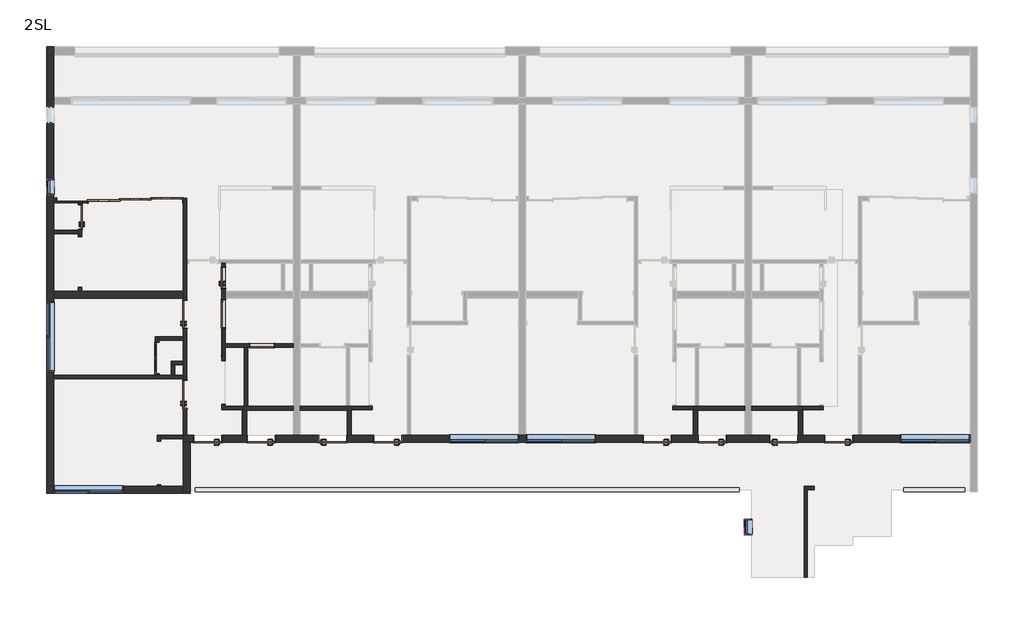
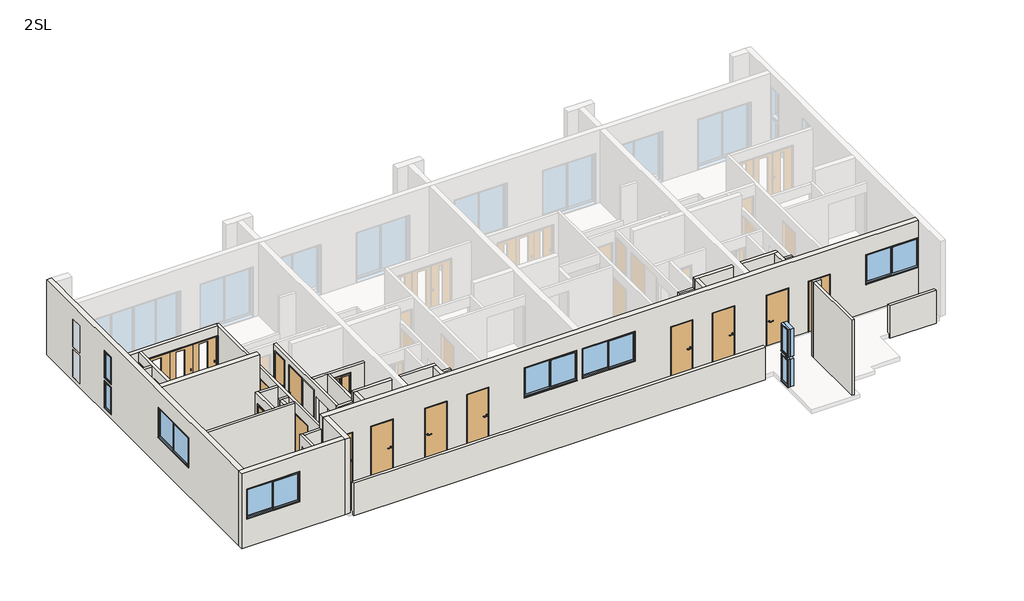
# One storey, part 1 of 3: 35 walls, 16 doors, 9 windows.
"""IFC4 building model written with IfcOpenShell, lengths in millimetres."""

from ifc_helpers import new_model, si_unit, frame, origin, place, context, project, spatial, polyline, outline, extrude, faceted_brep, transform, mapped, element, save
from components import door_02215395, door_74c77d62, door_21f0bdc0, door_a3db7c72, door_3b96e66a, door_ecad7493, door_6eb1cc95, door_2193869f, door_12b42705, window_a7724039, window_4c3e1407, w0450_h1100_93ba837a

model = new_model("IFC4")

# Units and contexts
model_context = context("Model", 3, world=origin())
ifc_project = project(units=[si_unit("LENGTHUNIT", "METRE", prefix="MILLI")], contexts=[model_context])

# Site, building, storey
site = spatial("IfcSite", under=ifc_project)
building = spatial("IfcBuilding", under=site)
storey = spatial("IfcBuildingStorey", under=building, Name="2SL", Elevation=4000.0)

# Doors
placement = place(None, origin())
door_shape = door_02215395(model_context)
element("IfcDoor", 1, ObjectType="鋼製_片開きマンション黒 : SD-1 w800h2000", at=placement, inside=storey, context=model_context, shape_type="MappedRepresentation", body=[
    mapped(door_shape, transform((-6095.6194095, -909.7401342, 4000.0), x_axis=(-1.0, 0.0, 0.0), y_axis=(0.0, -1.0, 0.0), z_axis=(0.0, 0.0, 1.0))),
])
element("IfcDoor", 2, ObjectType="鋼製_片開きマンション黒 : SD-1 w800h2000", at=placement, inside=storey, context=model_context, shape_type="MappedRepresentation", body=[
    mapped(door_shape, transform((-945.6194095, -909.7401342, 4000.0), x_axis=(-1.0, 0.0, 0.0), y_axis=(0.0, -1.0, 0.0), z_axis=(0.0, 0.0, 1.0))),
])
element("IfcDoor", 3, ObjectType="鋼製_片開きマンション黒 : SD-1 w800h2000", at=placement, inside=storey, context=model_context, shape_type="MappedRepresentation", body=[
    mapped(door_shape, transform((6754.3805905, -909.7401342, 4000.0), x_axis=(-1.0, 0.0, 0.0), y_axis=(0.0, -1.0, 0.0), z_axis=(0.0, 0.0, 1.0))),
])
element("IfcDoor", 4, ObjectType="鋼製_片開きマンション黒 : SD-1 w800h2000", at=placement, inside=storey, context=model_context, shape_type="MappedRepresentation", body=[
    mapped(door_shape, transform((11954.3805905, -909.7401342, 4000.0), x_axis=(-1.0, 0.0, 0.0), y_axis=(0.0, -1.0, 0.0), z_axis=(0.0, 0.0, 1.0))),
])
element("IfcDoor", 5, ObjectType="鋼製_片開きマンション黒 : SD-2 w800h2000", at=placement, inside=storey, context=model_context, shape_type="MappedRepresentation", body=[
    mapped(door_shape, transform((-4565.6194095, -909.7401342, 4000.0), x_axis=(-1.0, 0.0, 0.0), y_axis=(0.0, -1.0, 0.0), z_axis=(0.0, 0.0, 1.0))),
])
element("IfcDoor", 6, ObjectType="鋼製_片開きマンション黒 : SD-2 w800h2000", at=placement, inside=storey, context=model_context, shape_type="MappedRepresentation", body=[
    mapped(door_shape, transform((8334.3805905, -909.7401342, 4000.0), x_axis=(-1.0, 0.0, 0.0), y_axis=(0.0, -1.0, 0.0), z_axis=(0.0, 0.0, 1.0))),
])
door_2_shape = door_74c77d62(model_context)
element("IfcDoor", 7, ObjectType="鋼製_片開きマンション黒 : SD-2 w800h2000", at=placement, inside=storey, context=model_context, shape_type="MappedRepresentation", body=[
    mapped(door_2_shape, transform((-2525.6194095, -909.7401342, 4000.0), x_axis=(1.0, 0.0, 0.0), y_axis=(0.0, 1.0, 0.0), z_axis=(0.0, 0.0, 1.0))),
])
element("IfcDoor", 8, ObjectType="鋼製_片開きマンション黒 : SD-2 w800h2000", at=placement, inside=storey, context=model_context, shape_type="MappedRepresentation", body=[
    mapped(door_2_shape, transform((10374.3805905, -909.7401342, 4000.0), x_axis=(1.0, 0.0, 0.0), y_axis=(0.0, 1.0, 0.0), z_axis=(0.0, 0.0, 1.0))),
])
door_3_shape = door_21f0bdc0(model_context)
element("IfcDoor", 9, ObjectType="木製_片開き_フラッシュ : WD-3 w700h2000", at=placement, inside=storey, context=model_context, shape_type="MappedRepresentation", body=[
    mapped(door_3_shape, transform((-9745.6194095, 5440.2598658, 4100.0), x_axis=(0.0, 1.0, 0.0), y_axis=(-1.0, 0.0, 0.0), z_axis=(0.0, 0.0, 1.0))),
])
door_4_shape = door_a3db7c72(model_context)
element("IfcDoor", 10, ObjectType="木製_片開き_フラッシュ : WD-2 w600h2000", at=placement, inside=storey, context=model_context, shape_type="MappedRepresentation", body=[
    mapped(door_4_shape, transform((-5645.6194095, 3696.254513, 4210.0), x_axis=(0.0, 1.0, 0.0), y_axis=(-1.0, 0.0, 0.0), z_axis=(0.0, 0.0, 1.0))),
])
door_5_shape = door_3b96e66a(model_context)
element("IfcDoor", 11, ObjectType="木製_片開き_フラッシュ : WD-1\u3000w800h2000", at=placement, inside=storey, context=model_context, shape_type="MappedRepresentation", body=[
    mapped(door_5_shape, transform((-6745.6194095, 365.2598658, 4060.0), x_axis=(0.0, 1.0, 0.0), y_axis=(-1.0, 0.0, 0.0), z_axis=(0.0, 0.0, 1.0))),
])
element("IfcDoor", 12, ObjectType="木製_片開き_フラッシュ : WD-1\u3000w800h2000", at=placement, inside=storey, context=model_context, shape_type="MappedRepresentation", body=[
    mapped(door_5_shape, transform((-6745.6194095, 2654.3897435, 4060.0), x_axis=(0.0, 1.0, 0.0), y_axis=(-1.0, 0.0, 0.0), z_axis=(0.0, 0.0, 1.0))),
])
door_6_shape = door_ecad7493(model_context)
element("IfcDoor", 13, ObjectType="木製_折戸2枚_フラッシュ(UB) : WD-5 w900h2000", at=placement, inside=storey, context=model_context, shape_type="MappedRepresentation", body=[
    mapped(door_6_shape, transform((-7545.6194095, 1404.0387532, 4060.0), x_axis=(0.0, 1.0, 0.0), y_axis=(-1.0, 0.0, 0.0), z_axis=(0.0, 0.0, 1.0))),
])
door_7_shape = door_6eb1cc95(model_context)
element("IfcDoor", 14, ObjectType="木製_折戸2枚_フラッシュ(UB) : UB-1 w600h2000", at=placement, inside=storey, context=model_context, shape_type="MappedRepresentation", body=[
    mapped(door_7_shape, transform((-4545.6194095, 1760.2598658, 4210.0), x_axis=(1.0, 0.0, 0.0), y_axis=(0.0, 1.0, 0.0), z_axis=(0.0, 0.0, 1.0))),
])
door_8_shape = door_2193869f(model_context)
element("IfcDoor", 15, ObjectType="木製_片引き3枚_フラッシュ2 : WD-8 w2700h2000", at=placement, inside=storey, context=model_context, shape_type="MappedRepresentation", body=[
    mapped(door_8_shape, transform((-8171.1549135, 5910.2598658, 4100.0), x_axis=(-1.0, 0.0, 0.0), y_axis=(0.0, -1.0, 0.0), z_axis=(0.0, 0.0, 1.0))),
])
door_9_shape = door_12b42705(model_context)
element("IfcDoor", 16, ObjectType="木製_片引き_フラッシュ : WD-4 w800h2000", at=placement, inside=storey, context=model_context, shape_type="MappedRepresentation", body=[
    mapped(door_9_shape, transform((-5645.6194095, 2664.7243619, 4210.0), x_axis=(0.0, -1.0, 0.0), y_axis=(1.0, 0.0, 0.0), z_axis=(0.0, 0.0, 1.0))),
])

# Walls
element("IfcWall", 17, ObjectType="(C2)120", at=placement, inside=storey, context=model_context, shape_type="Brep", body=[
    faceted_brep([(-3645.6194095, 30.2598658, 4000.0), (-5105.6194095, 30.2598658, 4000.0), (-5105.6194095, 30.2598658, 4060.0), (-5105.6194095, 30.2598658, 6460.0), (-5105.6194095, 30.2598658, 6850.0), (-3645.6194095, 30.2598658, 6850.0), (-3645.6194095, -89.7401342, 4000.0), (-3645.6194095, -89.7401342, 6850.0), (-4985.6194095, -89.7401342, 6850.0), (-5105.6194095, -89.7401342, 6850.0), (-5105.6194095, -89.7401342, 4000.0), (-4985.6194095, -89.7401342, 4000.0)], [[[0, 1, 2, 3, 4, 5]], [[6, 7, 8, 9, 10, 11]], [[1, 0, 6, 11, 10]], [[5, 4, 9, 8, 7]], [[1, 10, 9, 4, 3, 2]], [[0, 5, 7, 6]]]),
])
element("IfcWall", 18, ObjectType="(C2)120", at=placement, inside=storey, context=model_context, shape_type="Brep", body=[
    faceted_brep([(-5105.6194095, -89.7401342, 6850.0), (-5105.6194095, -89.7401342, 4000.0), (-5105.6194095, -809.7401342, 4000.0), (-5105.6194095, -809.7401342, 6850.0), (-4985.6194095, -89.7401342, 4000.0), (-4985.6194095, -89.7401342, 6850.0), (-4985.6194095, -809.7401342, 6850.0), (-4985.6194095, -809.7401342, 6020.0), (-4985.6194095, -809.7401342, 4000.0)], [[[0, 1, 2, 3]], [[4, 5, 6, 7, 8]], [[2, 1, 4, 8]], [[0, 3, 6, 5]], [[0, 5, 4, 1]], [[3, 2, 8, 7, 6]]]),
])
element("IfcWall", 19, ObjectType="(C2)120", at=placement, inside=storey, context=model_context, shape_type="Brep", body=[
    faceted_brep([(-3445.6194095, -89.7401342, 4000.0), (-2105.6194095, -89.7401342, 4000.0), (-1985.6194095, -89.7401342, 4000.0), (-1985.6194095, -89.7401342, 6850.0), (-2105.6194095, -89.7401342, 6850.0), (-3445.6194095, -89.7401342, 6850.0), (-3445.6194095, 30.2598658, 4000.0), (-3445.6194095, 30.2598658, 6850.0), (-1985.6194095, 30.2598658, 6850.0), (-1985.6194095, 30.2598658, 6460.0), (-1985.6194095, 30.2598658, 4000.0), (-2035.6194095, 30.2598658, 4000.0), (-2135.6194095, 30.2598658, 4000.0), (-1985.6194095, -69.7401342, 4000.0)], [[[0, 1, 2, 3, 4, 5]], [[6, 7, 8, 9, 10, 11, 12]], [[2, 1, 0, 6, 12, 11, 10, 13]], [[5, 4, 3, 8, 7]], [[2, 13, 10, 9, 8, 3]], [[0, 5, 7, 6]]]),
])
element("IfcWall", 20, ObjectType="(C2)120", at=placement, inside=storey, context=model_context, shape_type="Brep", body=[
    faceted_brep([(-2105.6194095, -89.7401342, 6850.0), (-2105.6194095, -89.7401342, 4000.0), (-2105.6194095, -809.7401342, 4000.0), (-2105.6194095, -809.7401342, 6020.0), (-2105.6194095, -809.7401342, 6850.0), (-1985.6194095, -89.7401342, 4000.0), (-1985.6194095, -89.7401342, 6850.0), (-1985.6194095, -809.7401342, 6850.0), (-1985.6194095, -809.7401342, 4000.0)], [[[0, 1, 2, 3, 4]], [[5, 6, 7, 8]], [[2, 1, 5, 8]], [[0, 4, 7, 6]], [[0, 6, 5, 1]], [[4, 3, 2, 8, 7]]]),
])
element("IfcWall", 21, ObjectType="(C2)120", at=placement, inside=storey, context=model_context, shape_type="Brep", body=[
    faceted_brep([(9254.3805905, 30.2598658, 4000.0), (7944.3805905, 30.2598658, 4000.0), (7844.3805905, 30.2598658, 4000.0), (7794.3805905, 30.2598658, 4000.0), (7794.3805905, 30.2598658, 6460.0), (7794.3805905, 30.2598658, 6850.0), (9254.3805905, 30.2598658, 6850.0), (9254.3805905, -89.7401342, 4000.0), (9254.3805905, -89.7401342, 6850.0), (7914.3805905, -89.7401342, 6850.0), (7794.3805905, -89.7401342, 6850.0), (7794.3805905, -89.7401342, 4000.0), (7914.3805905, -89.7401342, 4000.0), (7794.3805905, -69.7401342, 4000.0)], [[[0, 1, 2, 3, 4, 5, 6]], [[7, 8, 9, 10, 11, 12]], [[3, 2, 1, 0, 7, 12, 11, 13]], [[6, 5, 10, 9, 8]], [[3, 13, 11, 10, 5, 4]], [[0, 6, 8, 7]]]),
])
element("IfcWall", 22, ObjectType="(C2)120", at=placement, inside=storey, context=model_context, shape_type="Brep", body=[
    faceted_brep([(7794.3805905, -89.7401342, 6850.0), (7794.3805905, -89.7401342, 4000.0), (7794.3805905, -809.7401342, 4000.0), (7794.3805905, -809.7401342, 6850.0), (7914.3805905, -89.7401342, 4000.0), (7914.3805905, -89.7401342, 6850.0), (7914.3805905, -809.7401342, 6850.0), (7914.3805905, -809.7401342, 6020.0), (7914.3805905, -809.7401342, 4000.0)], [[[0, 1, 2, 3]], [[4, 5, 6, 7, 8]], [[2, 1, 4, 8]], [[0, 3, 6, 5]], [[0, 5, 4, 1]], [[3, 2, 8, 7, 6]]]),
])
element("IfcWall", 23, ObjectType="(C2)120", at=placement, inside=storey, context=model_context, shape_type="Brep", body=[
    faceted_brep([(9454.3805905, -89.7401342, 4000.0), (10794.3805905, -89.7401342, 4000.0), (10914.3805905, -89.7401342, 4000.0), (10914.3805905, -89.7401342, 6850.0), (10794.3805905, -89.7401342, 6850.0), (9454.3805905, -89.7401342, 6850.0), (9454.3805905, 30.2598658, 4000.0), (9454.3805905, 30.2598658, 6850.0), (10914.3805905, 30.2598658, 6850.0), (10914.3805905, 30.2598658, 6460.0), (10914.3805905, 30.2598658, 4000.0), (10864.3805905, 30.2598658, 4000.0), (10764.3805905, 30.2598658, 4000.0), (10914.3805905, -69.7401342, 4000.0)], [[[0, 1, 2, 3, 4, 5]], [[6, 7, 8, 9, 10, 11, 12]], [[2, 1, 0, 6, 12, 11, 10, 13]], [[5, 4, 3, 8, 7]], [[2, 13, 10, 9, 8, 3]], [[0, 5, 7, 6]]]),
])
element("IfcWall", 24, ObjectType="(C2)120", at=placement, inside=storey, context=model_context, shape_type="Brep", body=[
    faceted_brep([(10794.3805905, -89.7401342, 6850.0), (10794.3805905, -89.7401342, 4000.0), (10794.3805905, -809.7401342, 4000.0), (10794.3805905, -809.7401342, 6020.0), (10794.3805905, -809.7401342, 6850.0), (10914.3805905, -89.7401342, 4000.0), (10914.3805905, -89.7401342, 6850.0), (10914.3805905, -809.7401342, 6850.0), (10914.3805905, -809.7401342, 4000.0)], [[[0, 1, 2, 3, 4]], [[5, 6, 7, 8]], [[2, 1, 5, 8]], [[0, 4, 7, 6]], [[0, 6, 5, 1]], [[4, 3, 2, 8, 7]]]),
])
element("IfcWall", 25, ObjectType="(L)100", at=placement, inside=storey, context=model_context, shape_type="Brep", body=[
    faceted_brep([(-7545.6194095, -2259.7401342, 6460.0), (-7545.6194095, -809.7401342, 6460.0), (-7545.6194095, -809.7401342, 4060.0), (-7545.6194095, -975.9612468, 4060.0), (-7545.6194095, -975.9612468, 6080.0), (-7545.6194095, -2215.9612468, 6080.0), (-7545.6194095, -2215.9612468, 4060.0), (-7545.6194095, -2259.7401342, 4060.0), (-7445.6194095, -809.7401342, 6460.0), (-7445.6194095, -909.7401342, 6460.0), (-7445.6194095, -2259.7401342, 6460.0), (-7445.6194095, -2259.7401342, 4060.0), (-7445.6194095, -2215.9612468, 4060.0), (-7445.6194095, -2215.9612468, 6080.0), (-7445.6194095, -975.9612468, 6080.0), (-7445.6194095, -975.9612468, 4060.0), (-7445.6194095, -909.7401342, 4060.0), (-7445.6194095, -809.7401342, 4060.0)], [[[0, 1, 2, 3, 4, 5, 6, 7]], [[8, 9, 10, 11, 12, 13, 14, 15, 16, 17]], [[2, 17, 16, 15, 3]], [[11, 7, 6, 12]], [[1, 0, 10, 9, 8]], [[2, 1, 8, 17]], [[0, 7, 11, 10]], [[14, 4, 3, 15]], [[5, 13, 12, 6]], [[13, 5, 4, 14]]]),
])
element("IfcWall", 26, ObjectType="(L)100", at=placement, inside=storey, context=model_context, shape_type="SweptSolid", body=[
    extrude(outline(polyline([(-7445.6194095, -809.7401342), (-6795.6194095, -809.7401342), (-6795.6194095, -909.7401342), (-7445.6194095, -909.7401342), (-7445.6194095, -809.7401342)])), frame((0.0, 0.0, 4060.0), z_axis=(0.0, 0.0, 1.0), x_axis=(1.0, 0.0, 0.0)), (0.0, 0.0, 1.0), 2400.0),
])
element("IfcWall", 27, ObjectType="(L)100", at=placement, inside=storey, context=model_context, shape_type="Brep", body=[
    faceted_brep([(-6795.6194095, 910.2598658, 4060.0), (-7036.6140567, 910.2598658, 4060.0), (-7136.6140567, 910.2598658, 4060.0), (-10495.6194095, 910.2598658, 4060.0), (-10495.6194095, 910.2598658, 6460.0), (-7595.6194095, 910.2598658, 6460.0), (-7495.6194095, 910.2598658, 6460.0), (-7136.6140567, 910.2598658, 6460.0), (-7036.6140567, 910.2598658, 6460.0), (-6795.6194095, 910.2598658, 6460.0), (-6795.6194095, 810.2598658, 4060.0), (-6795.6194095, 810.2598658, 6460.0), (-10495.6194095, 810.2598658, 6460.0), (-10495.6194095, 810.2598658, 4060.0)], [[[0, 1, 2, 3, 4, 5, 6, 7, 8, 9]], [[10, 11, 12, 13]], [[3, 2, 1, 0, 10, 13]], [[9, 8, 7, 6, 5, 4, 12, 11]], [[4, 3, 13, 12]], [[0, 9, 11, 10]]]),
])
element("IfcWall", 28, ObjectType="(L)100", at=placement, inside=storey, context=model_context, shape_type="Brep", body=[
    faceted_brep([(-5105.6194095, 30.2598658, 4060.0), (-5595.6194095, 30.2598658, 4060.0), (-5695.6194095, 30.2598658, 4060.0), (-5695.6194095, 30.2598658, 6460.0), (-5595.6194095, 30.2598658, 6460.0), (-5105.6194095, 30.2598658, 6460.0), (-5105.6194095, -69.7401342, 4060.0), (-5105.6194095, -69.7401342, 6460.0), (-5695.6194095, -69.7401342, 6460.0), (-5695.6194095, -69.7401342, 4060.0)], [[[0, 1, 2, 3, 4, 5]], [[6, 7, 8, 9]], [[2, 1, 0, 6, 9]], [[5, 4, 3, 8, 7]], [[3, 2, 9, 8]], [[0, 5, 7, 6]]]),
])
element("IfcWall", 29, ObjectType="(L)100", at=placement, inside=storey, context=model_context, shape_type="Brep", body=[
    faceted_brep([(-5595.6194095, 4110.2598658, 6460.0), (-5595.6194095, 1810.2598658, 6460.0), (-5595.6194095, 1710.2598658, 6460.0), (-5595.6194095, 30.2598658, 6460.0), (-5595.6194095, 30.2598658, 4060.0), (-5595.6194095, 80.2598658, 4060.0), (-5595.6194095, 80.2598658, 6020.0), (-5595.6194095, 1320.2598658, 6020.0), (-5595.6194095, 1320.2598658, 4060.0), (-5595.6194095, 1710.2598658, 4060.0), (-5595.6194095, 1810.2598658, 4060.0), (-5595.6194095, 4110.2598658, 4060.0), (-5595.6194095, 2250.2598658, 6230.0), (-5595.6194095, 3090.2598658, 6230.0), (-5595.6194095, 3090.2598658, 4210.0), (-5595.6194095, 2250.2598658, 4210.0), (-5595.6194095, 4016.254513, 6230.0), (-5595.6194095, 4016.254513, 4210.0), (-5595.6194095, 3376.254513, 4210.0), (-5595.6194095, 3376.254513, 6230.0), (-5695.6194095, 30.2598658, 6460.0), (-5695.6194095, 4110.2598658, 6460.0), (-5695.6194095, 4110.2598658, 4060.0), (-5695.6194095, 1320.2598658, 4060.0), (-5695.6194095, 1320.2598658, 6020.0), (-5695.6194095, 80.2598658, 6020.0), (-5695.6194095, 80.2598658, 4060.0), (-5695.6194095, 30.2598658, 4060.0), (-5695.6194095, 3090.2598658, 6230.0), (-5695.6194095, 1450.2598658, 6230.0), (-5695.6194095, 1450.2598658, 4210.0), (-5695.6194095, 3090.2598658, 4210.0), (-5695.6194095, 4016.254513, 4210.0), (-5695.6194095, 4016.254513, 6230.0), (-5695.6194095, 3376.254513, 6230.0), (-5695.6194095, 3376.254513, 4210.0), (-5665.6194095, 2250.2598658, 6230.0), (-5665.6194095, 1450.2598658, 6230.0), (-5665.6194095, 1450.2598658, 4210.0), (-5665.6194095, 2250.2598658, 4210.0)], [[[0, 1, 2, 3, 4, 5, 6, 7, 8, 9, 10, 11], [12, 13, 14, 15], [16, 17, 18, 19]], [[20, 21, 22, 23, 24, 25, 26, 27], [28, 29, 30, 31], [32, 33, 34, 35]], [[22, 11, 10, 9, 8, 23]], [[4, 27, 26, 5]], [[3, 2, 1, 0, 21, 20]], [[0, 11, 22, 21]], [[4, 3, 20, 27]], [[7, 24, 23, 8]], [[25, 6, 5, 26]], [[24, 7, 6, 25]], [[36, 37, 29, 28, 13, 12]], [[13, 28, 31, 14]], [[38, 39, 15, 14, 31, 30]], [[39, 36, 12, 15]], [[37, 36, 39, 38]], [[37, 38, 30, 29]], [[16, 33, 32, 17]], [[17, 32, 35, 18]], [[18, 35, 34, 19]], [[33, 16, 19, 34]]]),
])
element("IfcWall", 30, ObjectType="(L)100", at=placement, inside=storey, context=model_context, shape_type="Brep", body=[
    faceted_brep([(-3645.6194095, 1810.2598658, 4060.0), (-5595.6194095, 1810.2598658, 4060.0), (-5595.6194095, 1810.2598658, 6460.0), (-3645.6194095, 1810.2598658, 6460.0), (-4175.6194095, 1810.2598658, 6230.0), (-4915.6194095, 1810.2598658, 6230.0), (-4915.6194095, 1810.2598658, 4210.0), (-4175.6194095, 1810.2598658, 4210.0), (-3645.6194095, 1710.2598658, 4060.0), (-3645.6194095, 1710.2598658, 6460.0), (-4955.6194095, 1710.2598658, 6460.0), (-5055.6194095, 1710.2598658, 6460.0), (-5595.6194095, 1710.2598658, 6460.0), (-5595.6194095, 1710.2598658, 4060.0), (-5055.6194095, 1710.2598658, 4060.0), (-4955.6194095, 1710.2598658, 4060.0), (-4175.6194095, 1710.2598658, 6230.0), (-4175.6194095, 1710.2598658, 4210.0), (-4915.6194095, 1710.2598658, 4210.0), (-4915.6194095, 1710.2598658, 6230.0)], [[[0, 1, 2, 3], [4, 5, 6, 7]], [[8, 9, 10, 11, 12, 13, 14, 15], [16, 17, 18, 19]], [[1, 0, 8, 15, 14, 13]], [[3, 2, 12, 11, 10, 9]], [[2, 1, 13, 12]], [[0, 3, 9, 8]], [[17, 16, 4, 7]], [[18, 17, 7, 6]], [[19, 18, 6, 5]], [[16, 19, 5, 4]]]),
])
element("IfcWall", 31, ObjectType="(L)100", at=placement, inside=storey, context=model_context, shape_type="Brep", body=[
    faceted_brep([(-7595.6194095, 2010.2598658, 4000.0), (-7595.6194095, 910.2598658, 4000.0), (-7595.6194095, 910.2598658, 6460.0), (-7595.6194095, 2010.2598658, 6460.0), (-7595.6194095, 934.0387532, 4060.0), (-7595.6194095, 1874.0387532, 4060.0), (-7595.6194095, 1874.0387532, 6080.0), (-7595.6194095, 934.0387532, 6080.0), (-7495.6194095, 910.2598658, 4000.0), (-7495.6194095, 2010.2598658, 4000.0), (-7495.6194095, 2010.2598658, 4060.0), (-7495.6194095, 2010.2598658, 6460.0), (-7495.6194095, 1910.2598658, 6460.0), (-7495.6194095, 910.2598658, 6460.0), (-7495.6194095, 1874.0387532, 4060.0), (-7495.6194095, 934.0387532, 4060.0), (-7495.6194095, 934.0387532, 6080.0), (-7495.6194095, 1874.0387532, 6080.0)], [[[0, 1, 2, 3], [4, 5, 6, 7]], [[8, 9, 10, 11, 12, 13], [14, 15, 16, 17]], [[1, 0, 9, 8]], [[3, 2, 13, 12, 11]], [[0, 3, 11, 10, 9]], [[2, 1, 8, 13]], [[5, 14, 17, 6]], [[14, 5, 4, 15]], [[15, 4, 7, 16]], [[16, 7, 6, 17]]]),
])
element("IfcWall", 32, ObjectType="(L)100", at=placement, inside=storey, context=model_context, shape_type="SweptSolid", body=[
    extrude(outline(polyline([(-7495.6194095, 2010.2598658), (-6795.6194095, 2010.2598658), (-6795.6194095, 1910.2598658), (-7495.6194095, 1910.2598658), (-7495.6194095, 2010.2598658)])), frame((0.0, 0.0, 4060.0), z_axis=(0.0, 0.0, 1.0), x_axis=(1.0, 0.0, 0.0)), (0.0, 0.0, 1.0), 2400.0),
])
element("IfcWall", 33, ObjectType="(L)100", at=placement, inside=storey, context=model_context, shape_type="Brep", body=[
    faceted_brep([(-6795.6194095, -809.7401342, 6500.0), (-6795.6194095, 5847.7598658, 6500.0), (-6795.6194095, 5972.7598658, 6500.0), (-6795.6194095, 5972.7598658, 6120.0), (-6795.6194095, 5972.7598658, 4100.0), (-6795.6194095, 3074.3897435, 4100.0), (-6795.6194095, 3074.3897435, 6080.0), (-6795.6194095, 2234.3897435, 6080.0), (-6795.6194095, 2234.3897435, 4100.0), (-6795.6194095, 785.2598658, 4100.0), (-6795.6194095, 785.2598658, 6080.0), (-6795.6194095, -54.7401342, 6080.0), (-6795.6194095, -54.7401342, 4100.0), (-6795.6194095, -809.7401342, 4100.0), (-6695.6194095, 5972.7598658, 6500.0), (-6695.6194095, -809.7401342, 6500.0), (-6695.6194095, -809.7401342, 4100.0), (-6695.6194095, -54.7401342, 4100.0), (-6695.6194095, -54.7401342, 6080.0), (-6695.6194095, 785.2598658, 6080.0), (-6695.6194095, 785.2598658, 4100.0), (-6695.6194095, 2234.3897435, 4100.0), (-6695.6194095, 2234.3897435, 6080.0), (-6695.6194095, 3074.3897435, 6080.0), (-6695.6194095, 3074.3897435, 4100.0), (-6695.6194095, 5972.7598658, 4100.0)], [[[0, 1, 2, 3, 4, 5, 6, 7, 8, 9, 10, 11, 12, 13]], [[14, 15, 16, 17, 18, 19, 20, 21, 22, 23, 24, 25]], [[4, 25, 24, 5]], [[16, 13, 12, 17]], [[20, 9, 8, 21]], [[2, 1, 0, 15, 14]], [[4, 3, 2, 14, 25]], [[13, 16, 15, 0]], [[19, 10, 9, 20]], [[11, 18, 17, 12]], [[10, 19, 18, 11]], [[23, 6, 5, 24]], [[7, 22, 21, 8]], [[6, 23, 22, 7]]]),
])
element("IfcWall", 34, ObjectType="(L)100", at=placement, inside=storey, context=model_context, shape_type="SweptSolid", body=[
    extrude(outline(polyline([(3310.2598658, 6500.0), (5847.7598658, 6500.0), (5847.7598658, 4100.0), (5810.2598658, 4100.0), (5810.2598658, 6120.0), (5070.2598658, 6120.0), (5070.2598658, 4100.0), (4866.254513, 4100.0), (4866.254513, 6080.0), (3426.254513, 6080.0), (3426.254513, 4100.0), (3310.2598658, 4100.0), (3310.2598658, 6500.0)])), frame((-9795.6194095, 0.0, 0.0), z_axis=(1.0, 0.0, 0.0), x_axis=(0.0, 1.0, 0.0)), (0.0, 0.0, 1.0), 100.0),
])
element("IfcWall", 35, ObjectType="(L)100", at=placement, inside=storey, context=model_context, shape_type="SweptSolid", body=[
    extrude(outline(polyline([(-10495.6194095, 5060.2598658), (-9795.6194095, 5060.2598658), (-9795.6194095, 4960.2598658), (-10495.6194095, 4960.2598658), (-10495.6194095, 5060.2598658)])), frame((0.0, 0.0, 4060.0), z_axis=(0.0, 0.0, 1.0), x_axis=(1.0, 0.0, 0.0)), (0.0, 0.0, 1.0), 2400.0),
])
element("IfcWall", 36, ObjectType="(L)100", at=placement, inside=storey, context=model_context, shape_type="Brep", body=[
    faceted_brep([(-1985.6194095, -69.7401342, 4000.0), (-1395.6194095, -69.7401342, 4000.0), (-1395.6194095, -69.7401342, 6460.0), (-1985.6194095, -69.7401342, 6460.0), (-1985.6194095, 30.2598658, 4000.0), (-1985.6194095, 30.2598658, 6460.0), (-1495.6194095, 30.2598658, 6460.0), (-1395.6194095, 30.2598658, 6460.0), (-1395.6194095, 30.2598658, 4060.0), (-1395.6194095, 30.2598658, 4000.0)], [[[0, 1, 2, 3]], [[4, 5, 6, 7, 8, 9]], [[1, 0, 4, 9]], [[3, 2, 7, 6, 5]], [[2, 1, 9, 8, 7]], [[0, 3, 5, 4]]]),
])
element("IfcWall", 37, ObjectType="(L)100", at=placement, inside=storey, context=model_context, shape_type="SweptSolid", body=[
    extrude(outline(polyline([(-5055.6194095, 30.2598658), (-5055.6194095, 1710.2598658), (-4955.6194095, 1710.2598658), (-4955.6194095, 30.2598658), (-5055.6194095, 30.2598658)])), frame((0.0, 0.0, 4060.0), z_axis=(0.0, 0.0, 1.0), x_axis=(1.0, 0.0, 0.0)), (0.0, 0.0, 1.0), 2400.0),
])
element("IfcWall", 38, ObjectType="(L)100", at=placement, inside=storey, context=model_context, shape_type="Brep", body=[
    faceted_brep([(7794.3805905, 30.2598658, 4000.0), (7204.3805905, 30.2598658, 4000.0), (7204.3805905, 30.2598658, 4060.0), (7204.3805905, 30.2598658, 6460.0), (7304.3805905, 30.2598658, 6460.0), (7794.3805905, 30.2598658, 6460.0), (7794.3805905, -69.7401342, 4000.0), (7794.3805905, -69.7401342, 6460.0), (7204.3805905, -69.7401342, 6460.0), (7204.3805905, -69.7401342, 4000.0)], [[[0, 1, 2, 3, 4, 5]], [[6, 7, 8, 9]], [[1, 0, 6, 9]], [[5, 4, 3, 8, 7]], [[3, 2, 1, 9, 8]], [[0, 5, 7, 6]]]),
])
element("IfcWall", 39, ObjectType="(L)100", at=placement, inside=storey, context=model_context, shape_type="Brep", body=[
    faceted_brep([(10914.3805905, -69.7401342, 4000.0), (11504.3805905, -69.7401342, 4000.0), (11504.3805905, -69.7401342, 6460.0), (10914.3805905, -69.7401342, 6460.0), (10914.3805905, 30.2598658, 4000.0), (10914.3805905, 30.2598658, 6460.0), (11404.3805905, 30.2598658, 6460.0), (11504.3805905, 30.2598658, 6460.0), (11504.3805905, 30.2598658, 4060.0), (11504.3805905, 30.2598658, 4000.0)], [[[0, 1, 2, 3]], [[4, 5, 6, 7, 8, 9]], [[1, 0, 4, 9]], [[3, 2, 7, 6, 5]], [[2, 1, 9, 8, 7]], [[0, 3, 5, 4]]]),
])
element("IfcWall", 40, ObjectType="(L)100", at=placement, inside=storey, context=model_context, shape_type="Brep", body=[
    faceted_brep([(-6795.6194095, 1310.2598658, 4060.0), (-7136.6140567, 1310.2598658, 4060.0), (-7136.6140567, 1310.2598658, 6460.0), (-6795.6194095, 1310.2598658, 6460.0), (-6795.6194095, 1210.2598658, 4060.0), (-6795.6194095, 1210.2598658, 6460.0), (-7036.6140567, 1210.2598658, 6460.0), (-7136.6140567, 1210.2598658, 6460.0), (-7136.6140567, 1210.2598658, 4060.0), (-7036.6140567, 1210.2598658, 4060.0)], [[[0, 1, 2, 3]], [[4, 5, 6, 7, 8, 9]], [[1, 0, 4, 9, 8]], [[3, 2, 7, 6, 5]], [[2, 1, 8, 7]], [[0, 3, 5, 4]]]),
])
element("IfcWall", 41, ObjectType="(L)100", at=placement, inside=storey, context=model_context, shape_type="SweptSolid", body=[
    extrude(outline(polyline([(-7136.6140567, 910.2598658), (-7136.6140567, 1210.2598658), (-7036.6140567, 1210.2598658), (-7036.6140567, 910.2598658), (-7136.6140567, 910.2598658)])), frame((0.0, 0.0, 4060.0), z_axis=(0.0, 0.0, 1.0), x_axis=(1.0, 0.0, 0.0)), (0.0, 0.0, 1.0), 2400.0),
])
element("IfcWall", 42, ObjectType="(L)100", at=placement, inside=storey, context=model_context, shape_type="Brep", body=[
    faceted_brep([(11254.3805905, -2259.7401342, 4000.0), (10954.3805905, -2259.7401342, 4000.0), (10954.3805905, -2259.7401342, 7000.0), (11254.3805905, -2259.7401342, 7000.0), (11254.3805905, -2359.7401342, 4000.0), (11254.3805905, -2359.7401342, 7000.0), (11054.3805905, -2359.7401342, 7000.0), (10954.3805905, -2359.7401342, 7000.0), (10954.3805905, -2359.7401342, 4000.0), (11054.3805905, -2359.7401342, 4000.0)], [[[0, 1, 2, 3]], [[4, 5, 6, 7, 8, 9]], [[1, 0, 4, 9, 8]], [[3, 2, 7, 6, 5]], [[2, 1, 8, 7]], [[0, 3, 5, 4]]]),
])
element("IfcWall", 43, ObjectType="(L)100", at=placement, inside=storey, context=model_context, shape_type="SweptSolid", body=[
    extrude(outline(polyline([(10954.3805905, -4859.7401342), (10954.3805905, -2359.7401342), (11054.3805905, -2359.7401342), (11054.3805905, -4859.7401342), (10954.3805905, -4859.7401342)])), frame((0.0, 0.0, 4000.0), z_axis=(0.0, 0.0, 1.0), x_axis=(1.0, 0.0, 0.0)), (0.0, 0.0, 1.0), 3000.0),
])
element("IfcWall", 44, ObjectType="(L1)125", at=placement, inside=storey, context=model_context, shape_type="Brep", body=[
    faceted_brep([(-6795.6194095, 5847.7598658, 6500.0), (-9695.6194095, 5847.7598658, 6500.0), (-9795.6194095, 5847.7598658, 6500.0), (-10495.6194095, 5847.7598658, 6500.0), (-10495.6194095, 5847.7598658, 4100.0), (-9795.6194095, 5847.7598658, 4100.0), (-9695.6194095, 5847.7598658, 4100.0), (-9535.6194095, 5847.7598658, 4100.0), (-9535.6194095, 5847.7598658, 6120.0), (-6795.6194095, 5847.7598658, 6120.0), (-10495.6194095, 5972.7598658, 6500.0), (-6795.6194095, 5972.7598658, 6500.0), (-6795.6194095, 5972.7598658, 6120.0), (-10435.6194095, 5972.7598658, 6120.0), (-10435.6194095, 5972.7598658, 4100.0), (-10495.6194095, 5972.7598658, 4100.0), (-10435.6194095, 5882.7598658, 4100.0), (-9535.6194095, 5882.7598658, 4100.0), (-9535.6194095, 5882.7598658, 6120.0), (-10435.6194095, 5882.7598658, 6120.0)], [[[0, 1, 2, 3, 4, 5, 6, 7, 8, 9]], [[10, 11, 12, 13, 14, 15]], [[4, 15, 14, 16, 17, 7, 6, 5]], [[3, 2, 1, 0, 11, 10]], [[4, 3, 10, 15]], [[11, 0, 9, 12]], [[18, 19, 13, 12, 9, 8]], [[17, 18, 8, 7]], [[19, 18, 17, 16]], [[19, 16, 14, 13]]]),
])
element("IfcWall", 45, ObjectType="(R)120", at=placement, inside=storey, context=model_context, shape_type="SweptSolid", body=[
    extrude(outline(polyline([(9104.3805905, -2419.7401342), (-6448.5682145, -2419.7401342), (-6448.5682145, -2299.7401342), (9104.3805905, -2299.7401342), (9104.3805905, -2419.7401342)])), frame((0.0, 0.0, 3800.0), z_axis=(0.0, 0.0, 1.0), x_axis=(1.0, 0.0, 0.0)), (0.0, 0.0, 1.0), 1300.0),
])
element("IfcWall", 46, ObjectType="(R)120", at=placement, inside=storey, context=model_context, shape_type="SweptSolid", body=[
    extrude(outline(polyline([(15554.3805905, -2419.7401342), (13804.3805905, -2419.7401342), (13804.3805905, -2299.7401342), (15554.3805905, -2299.7401342), (15554.3805905, -2419.7401342)])), frame((0.0, 0.0, 3800.0), z_axis=(0.0, 0.0, 1.0), x_axis=(1.0, 0.0, 0.0)), (0.0, 0.0, 1.0), 1300.0),
])
element("IfcWall", 47, ObjectType="(R)200", at=placement, inside=storey, context=model_context, shape_type="Brep", body=[
    faceted_brep([(-6795.6194095, -809.7401342, 7000.0), (-3645.6194095, -809.7401342, 7000.0), (-3445.6194095, -809.7401342, 7000.0), (2804.3805905, -809.7401342, 7000.0), (3004.3805905, -809.7401342, 7000.0), (9254.3805905, -809.7401342, 7000.0), (9454.3805905, -809.7401342, 7000.0), (15704.3805905, -809.7401342, 7000.0), (15704.3805905, -809.7401342, 6320.0), (13704.3805905, -809.7401342, 6320.0), (13704.3805905, -809.7401342, 5120.0), (15704.3805905, -809.7401342, 5120.0), (15704.3805905, -809.7401342, 4000.0), (12374.3805905, -809.7401342, 4000.0), (12374.3805905, -809.7401342, 6020.0), (11534.3805905, -809.7401342, 6020.0), (11534.3805905, -809.7401342, 4000.0), (10914.3805905, -809.7401342, 4000.0), (10794.3805905, -809.7401342, 4000.0), (10794.3805905, -809.7401342, 6020.0), (9954.3805905, -809.7401342, 6020.0), (9954.3805905, -809.7401342, 4000.0), (9454.3805905, -809.7401342, 4000.0), (9254.3805905, -809.7401342, 4000.0), (8754.3805905, -809.7401342, 4000.0), (8754.3805905, -809.7401342, 6020.0), (7914.3805905, -809.7401342, 6020.0), (7914.3805905, -809.7401342, 4000.0), (7794.3805905, -809.7401342, 4000.0), (7174.3805905, -809.7401342, 4000.0), (7174.3805905, -809.7401342, 6020.0), (6334.3805905, -809.7401342, 6020.0), (6334.3805905, -809.7401342, 4000.0), (3004.3805905, -809.7401342, 4000.0), (2804.3805905, -809.7401342, 4000.0), (-525.6194095, -809.7401342, 4000.0), (-525.6194095, -809.7401342, 6020.0), (-1365.6194095, -809.7401342, 6020.0), (-1365.6194095, -809.7401342, 4000.0), (-1985.6194095, -809.7401342, 4000.0), (-2105.6194095, -809.7401342, 4000.0), (-2105.6194095, -809.7401342, 6020.0), (-2945.6194095, -809.7401342, 6020.0), (-2945.6194095, -809.7401342, 4000.0), (-3445.6194095, -809.7401342, 4000.0), (-3645.6194095, -809.7401342, 4000.0), (-4145.6194095, -809.7401342, 4000.0), (-4145.6194095, -809.7401342, 6020.0), (-4985.6194095, -809.7401342, 6020.0), (-4985.6194095, -809.7401342, 4000.0), (-5105.6194095, -809.7401342, 4000.0), (-5675.6194095, -809.7401342, 4000.0), (-5675.6194095, -809.7401342, 6020.0), (-6515.6194095, -809.7401342, 6020.0), (-6515.6194095, -809.7401342, 4000.0), (-6795.6194095, -809.7401342, 4000.0), (-6795.6194095, -809.7401342, 4100.0), (-6795.6194095, -809.7401342, 6500.0), (5004.3805905, -809.7401342, 5120.0), (5004.3805905, -809.7401342, 6320.0), (3004.3805905, -809.7401342, 6320.0), (3004.3805905, -809.7401342, 5120.0), (2804.3805905, -809.7401342, 5120.0), (2804.3805905, -809.7401342, 6320.0), (804.3805905, -809.7401342, 6320.0), (804.3805905, -809.7401342, 5120.0), (15704.3805905, -1009.7401342, 7000.0), (-6595.6194095, -1009.7401342, 7000.0), (-6795.6194095, -1009.7401342, 7000.0), (-6795.6194095, -1009.7401342, 4000.0), (-6595.6194095, -1009.7401342, 4000.0), (-6515.6194095, -1009.7401342, 4000.0), (-6515.6194095, -1009.7401342, 6020.0), (-5675.6194095, -1009.7401342, 6020.0), (-5675.6194095, -1009.7401342, 4000.0), (-4985.6194095, -1009.7401342, 4000.0), (-4985.6194095, -1009.7401342, 6020.0), (-4145.6194095, -1009.7401342, 6020.0), (-4145.6194095, -1009.7401342, 4000.0), (-2945.6194095, -1009.7401342, 4000.0), (-2945.6194095, -1009.7401342, 6020.0), (-2105.6194095, -1009.7401342, 6020.0), (-2105.6194095, -1009.7401342, 4000.0), (-1365.6194095, -1009.7401342, 4000.0), (-1365.6194095, -1009.7401342, 6020.0), (-525.6194095, -1009.7401342, 6020.0), (-525.6194095, -1009.7401342, 4000.0), (6334.3805905, -1009.7401342, 4000.0), (6334.3805905, -1009.7401342, 6020.0), (7174.3805905, -1009.7401342, 6020.0), (7174.3805905, -1009.7401342, 4000.0), (7914.3805905, -1009.7401342, 4000.0), (7914.3805905, -1009.7401342, 6020.0), (8754.3805905, -1009.7401342, 6020.0), (8754.3805905, -1009.7401342, 4000.0), (9954.3805905, -1009.7401342, 4000.0), (9954.3805905, -1009.7401342, 6020.0), (10794.3805905, -1009.7401342, 6020.0), (10794.3805905, -1009.7401342, 4000.0), (11534.3805905, -1009.7401342, 4000.0), (11534.3805905, -1009.7401342, 6020.0), (12374.3805905, -1009.7401342, 6020.0), (12374.3805905, -1009.7401342, 4000.0), (15704.3805905, -1009.7401342, 4000.0), (15704.3805905, -1009.7401342, 5120.0), (13704.3805905, -1009.7401342, 5120.0), (13704.3805905, -1009.7401342, 6320.0), (15704.3805905, -1009.7401342, 6320.0), (5004.3805905, -1009.7401342, 5120.0), (3004.3805905, -1009.7401342, 5120.0), (3004.3805905, -1009.7401342, 6320.0), (5004.3805905, -1009.7401342, 6320.0), (2804.3805905, -1009.7401342, 5120.0), (804.3805905, -1009.7401342, 5120.0), (804.3805905, -1009.7401342, 6320.0), (2804.3805905, -1009.7401342, 6320.0)], [[[0, 1, 2, 3, 4, 5, 6, 7, 8, 9, 10, 11, 12, 13, 14, 15, 16, 17, 18, 19, 20, 21, 22, 23, 24, 25, 26, 27, 28, 29, 30, 31, 32, 33, 34, 35, 36, 37, 38, 39, 40, 41, 42, 43, 44, 45, 46, 47, 48, 49, 50, 51, 52, 53, 54, 55, 56, 57], [58, 59, 60, 61], [62, 63, 64, 65]], [[66, 67, 68, 69, 70, 71, 72, 73, 74, 75, 76, 77, 78, 79, 80, 81, 82, 83, 84, 85, 86, 87, 88, 89, 90, 91, 92, 93, 94, 95, 96, 97, 98, 99, 100, 101, 102, 103, 104, 105, 106, 107], [108, 109, 110, 111], [112, 113, 114, 115]], [[69, 55, 54, 71, 70]], [[12, 103, 102, 13]], [[74, 51, 50, 49, 75]], [[78, 46, 45, 44, 43, 79]], [[38, 83, 82, 40, 39]], [[86, 35, 34, 33, 32, 87]], [[90, 29, 28, 27, 91]], [[94, 24, 23, 22, 21, 95]], [[16, 99, 98, 18, 17]], [[7, 6, 5, 4, 3, 2, 1, 0, 68, 67, 66]], [[7, 66, 107, 8]], [[103, 12, 11, 104]], [[55, 69, 68, 0, 57, 56]], [[54, 53, 72, 71]], [[52, 51, 74, 73]], [[53, 52, 73, 72]], [[49, 48, 76, 75]], [[47, 46, 78, 77]], [[48, 47, 77, 76]], [[38, 37, 84, 83]], [[36, 35, 86, 85]], [[37, 36, 85, 84]], [[82, 81, 41, 40]], [[80, 79, 43, 42]], [[81, 80, 42, 41]], [[32, 31, 88, 87]], [[30, 29, 90, 89]], [[31, 30, 89, 88]], [[27, 26, 92, 91]], [[25, 24, 94, 93]], [[26, 25, 93, 92]], [[16, 15, 100, 99]], [[14, 13, 102, 101]], [[15, 14, 101, 100]], [[98, 97, 19, 18]], [[96, 95, 21, 20]], [[97, 96, 20, 19]], [[106, 9, 8, 107]], [[9, 106, 105, 10]], [[10, 105, 104, 11]], [[59, 58, 108, 111]], [[60, 59, 111, 110]], [[61, 60, 110, 109]], [[58, 61, 109, 108]], [[63, 62, 112, 115]], [[64, 63, 115, 114]], [[65, 64, 114, 113]], [[62, 65, 113, 112]]]),
])
element("IfcWall", 48, ObjectType="(R)200", at=placement, inside=storey, context=model_context, shape_type="Brep", body=[
    faceted_brep([(-10495.6194095, -2259.7401342, 4000.0), (-10495.6194095, 3110.2598658, 4000.0), (-10495.6194095, 3310.2598658, 4000.0), (-10495.6194095, 8660.2598658, 4000.0), (-10495.6194095, 8860.2598658, 4000.0), (-10495.6194095, 10059.9866207, 4000.0), (-10495.6194095, 10309.9866207, 4000.0), (-10495.6194095, 10309.9866207, 7000.0), (-10495.6194095, 10059.9866207, 7000.0), (-10495.6194095, 8860.2598658, 7000.0), (-10495.6194095, 8660.2598658, 7000.0), (-10495.6194095, 3310.2598658, 7000.0), (-10495.6194095, 3110.2598658, 7000.0), (-10495.6194095, -2259.7401342, 7000.0), (-10495.6194095, 6070.2598658, 5380.0), (-10495.6194095, 6070.2598658, 6480.0), (-10495.6194095, 6520.2598658, 6480.0), (-10495.6194095, 6520.2598658, 5380.0), (-10495.6194095, 8130.2598658, 5380.0), (-10495.6194095, 8130.2598658, 6480.0), (-10495.6194095, 8580.2598658, 6480.0), (-10495.6194095, 8580.2598658, 5380.0), (-10495.6194095, 1014.3897435, 5130.0), (-10495.6194095, 1014.3897435, 6330.0), (-10495.6194095, 3014.3897435, 6330.0), (-10495.6194095, 3014.3897435, 5130.0), (-10495.6194095, 6070.2598658, 4180.0), (-10495.6194095, 6070.2598658, 5280.0), (-10495.6194095, 6520.2598658, 5280.0), (-10495.6194095, 6520.2598658, 4180.0), (-10495.6194095, 8130.2598658, 4180.0), (-10495.6194095, 8130.2598658, 5280.0), (-10495.6194095, 8580.2598658, 5280.0), (-10495.6194095, 8580.2598658, 4180.0), (-10695.6194095, -2259.7401342, 4000.0), (-10695.6194095, -2259.7401342, 7000.0), (-10695.6194095, 10309.9866207, 7000.0), (-10695.6194095, 10309.9866207, 4000.0), (-10695.6194095, 6070.2598658, 5380.0), (-10695.6194095, 6520.2598658, 5380.0), (-10695.6194095, 6520.2598658, 6480.0), (-10695.6194095, 6070.2598658, 6480.0), (-10695.6194095, 8130.2598658, 5380.0), (-10695.6194095, 8580.2598658, 5380.0), (-10695.6194095, 8580.2598658, 6480.0), (-10695.6194095, 8130.2598658, 6480.0), (-10695.6194095, 1014.3897435, 5130.0), (-10695.6194095, 3014.3897435, 5130.0), (-10695.6194095, 3014.3897435, 6330.0), (-10695.6194095, 1014.3897435, 6330.0), (-10695.6194095, 6070.2598658, 4180.0), (-10695.6194095, 6520.2598658, 4180.0), (-10695.6194095, 6520.2598658, 5280.0), (-10695.6194095, 6070.2598658, 5280.0), (-10695.6194095, 8130.2598658, 4180.0), (-10695.6194095, 8580.2598658, 4180.0), (-10695.6194095, 8580.2598658, 5280.0), (-10695.6194095, 8130.2598658, 5280.0)], [[[0, 1, 2, 3, 4, 5, 6, 7, 8, 9, 10, 11, 12, 13], [14, 15, 16, 17], [18, 19, 20, 21], [22, 23, 24, 25], [26, 27, 28, 29], [30, 31, 32, 33]], [[34, 35, 36, 37], [38, 39, 40, 41], [42, 43, 44, 45], [46, 47, 48, 49], [50, 51, 52, 53], [54, 55, 56, 57]], [[6, 5, 4, 3, 2, 1, 0, 34, 37]], [[13, 12, 11, 10, 9, 8, 7, 36, 35]], [[0, 13, 35, 34]], [[7, 6, 37, 36]], [[15, 14, 38, 41]], [[16, 15, 41, 40]], [[17, 16, 40, 39]], [[14, 17, 39, 38]], [[19, 18, 42, 45]], [[20, 19, 45, 44]], [[21, 20, 44, 43]], [[18, 21, 43, 42]], [[23, 22, 46, 49]], [[24, 23, 49, 48]], [[25, 24, 48, 47]], [[22, 25, 47, 46]], [[27, 26, 50, 53]], [[28, 27, 53, 52]], [[29, 28, 52, 51]], [[26, 29, 51, 50]], [[31, 30, 54, 57]], [[32, 31, 57, 56]], [[33, 32, 56, 55]], [[30, 33, 55, 54]]]),
])
element("IfcWall", 49, ObjectType="(R)200", at=placement, inside=storey, context=model_context, shape_type="Brep", body=[
    faceted_brep([(-6795.6194095, -2259.7401342, 4000.0), (-10495.6194095, -2259.7401342, 4000.0), (-10695.6194095, -2259.7401342, 4000.0), (-10695.6194095, -2259.7401342, 7000.0), (-10495.6194095, -2259.7401342, 7000.0), (-6795.6194095, -2259.7401342, 7000.0), (-8505.6194095, -2259.7401342, 5120.0), (-8505.6194095, -2259.7401342, 6320.0), (-10505.6194095, -2259.7401342, 6320.0), (-10505.6194095, -2259.7401342, 5120.0), (-6795.6194095, -2459.7401342, 4000.0), (-6795.6194095, -2459.7401342, 7000.0), (-10695.6194095, -2459.7401342, 7000.0), (-10695.6194095, -2459.7401342, 4000.0), (-8505.6194095, -2459.7401342, 5120.0), (-10505.6194095, -2459.7401342, 5120.0), (-10505.6194095, -2459.7401342, 6320.0), (-8505.6194095, -2459.7401342, 6320.0)], [[[0, 1, 2, 3, 4, 5], [6, 7, 8, 9]], [[10, 11, 12, 13], [14, 15, 16, 17]], [[2, 1, 0, 10, 13]], [[5, 4, 3, 12, 11]], [[3, 2, 13, 12]], [[0, 5, 11, 10]], [[7, 6, 14, 17]], [[8, 7, 17, 16]], [[9, 8, 16, 15]], [[6, 9, 15, 14]]]),
])
element("IfcWall", 50, ObjectType="(R)200", at=placement, inside=storey, context=model_context, shape_type="Brep", body=[
    faceted_brep([(-6595.6194095, -2459.7401342, 4000.0), (-6595.6194095, -2259.7401342, 4000.0), (-6595.6194095, -1009.7401342, 4000.0), (-6595.6194095, -1009.7401342, 7000.0), (-6595.6194095, -2459.7401342, 7000.0), (-6795.6194095, -2459.7401342, 4000.0), (-6795.6194095, -2459.7401342, 7000.0), (-6795.6194095, -2259.7401342, 7000.0), (-6795.6194095, -1009.7401342, 7000.0), (-6795.6194095, -1009.7401342, 4000.0), (-6795.6194095, -2259.7401342, 4000.0)], [[[0, 1, 2, 3, 4]], [[5, 6, 7, 8, 9, 10]], [[2, 1, 0, 5, 10, 9]], [[4, 3, 8, 7, 6]], [[0, 4, 6, 5]], [[2, 9, 8, 3]]]),
])
element("IfcWall", 51, ObjectType="(R)200", at=placement, inside=storey, context=model_context, shape_type="SweptSolid", body=[
    extrude(outline(polyline([(-10495.6194095, 3310.2598658), (-6795.6194095, 3310.2598658), (-6795.6194095, 3110.2598658), (-10495.6194095, 3110.2598658), (-10495.6194095, 3310.2598658)])), frame((0.0, 0.0, 4000.0), z_axis=(0.0, 0.0, 1.0), x_axis=(1.0, 0.0, 0.0)), (0.0, 0.0, 1.0), 3000.0),
])

# Windows
window_shape = window_a7724039(model_context)
element("IfcWindow", 52, ObjectType="窓-引違2枚-内付 : AW-4' w2000 h1200", at=placement, inside=storey, context=model_context, shape_type="MappedRepresentation", body=[
    mapped(window_shape, transform((14704.3805905, -909.7401342, 4520.0), x_axis=(-1.0, 0.0, 0.0), y_axis=(0.0, -1.0, 0.0), z_axis=(0.0, 0.0, 1.0))),
])
window_2_shape = window_4c3e1407(model_context)
element("IfcWindow", 53, ObjectType="窓-開き-内付 : AW-1 w0450 h1100", at=placement, inside=storey, context=model_context, shape_type="MappedRepresentation", body=[
    mapped(window_2_shape, transform((9354.3805905, -3429.7401342, 4180.0), x_axis=(0.0, 1.0, 0.0), y_axis=(-1.0, 0.0, 0.0), z_axis=(0.0, 0.0, 1.0))),
])
element("IfcWindow", 54, ObjectType="窓-開き-内付 : AW-1 w0450 h1100", at=placement, inside=storey, context=model_context, shape_type="MappedRepresentation", body=[
    mapped(window_2_shape, transform((-10595.6194095, 6295.2598658, 4180.0), x_axis=(0.0, 1.0, 0.0), y_axis=(-1.0, 0.0, 0.0), z_axis=(0.0, 0.0, 1.0))),
])
element("IfcWindow", 55, ObjectType="窓-引違2枚-内付 : AW-4 w2000 h1200", at=placement, inside=storey, context=model_context, shape_type="MappedRepresentation", body=[
    mapped(window_shape, transform((-10595.6194095, 2014.3897435, 4530.0), x_axis=(0.0, 1.0, 0.0), y_axis=(-1.0, 0.0, 0.0), z_axis=(0.0, 0.0, 1.0))),
])
element("IfcWindow", 56, ObjectType="窓-引違2枚-内付 : AW-4 w2000 h1200", at=placement, inside=storey, context=model_context, shape_type="MappedRepresentation", body=[
    mapped(window_shape, transform((1804.3805905, -909.7401342, 4520.0), x_axis=(-1.0, 0.0, 0.0), y_axis=(0.0, -1.0, 0.0), z_axis=(0.0, 0.0, 1.0))),
])
element("IfcWindow", 57, ObjectType="窓-引違2枚-内付 : AW-4 w2000 h1200", at=placement, inside=storey, context=model_context, shape_type="MappedRepresentation", body=[
    mapped(window_shape, transform((4004.3805905, -909.7401342, 4520.0), x_axis=(-1.0, 0.0, 0.0), y_axis=(0.0, -1.0, 0.0), z_axis=(0.0, 0.0, 1.0))),
])
element("IfcWindow", 58, ObjectType="窓-引違2枚-内付 : AW-4 w2000 h1200", at=placement, inside=storey, context=model_context, shape_type="MappedRepresentation", body=[
    mapped(window_shape, transform((-9505.6194095, -2359.7401342, 4520.0), x_axis=(-1.0, 0.0, 0.0), y_axis=(0.0, -1.0, 0.0), z_axis=(0.0, 0.0, 1.0))),
])
w0450_h1100_shape = w0450_h1100_93ba837a(model_context)
element("IfcWindow", 59, ObjectType="窓-Fix-内付 : w0450 h1100", at=placement, inside=storey, context=model_context, shape_type="MappedRepresentation", body=[
    mapped(w0450_h1100_shape, transform((-10595.6194095, 6295.2598658, 4120.0), x_axis=(0.0, 1.0, 0.0), y_axis=(-1.0, 0.0, 0.0), z_axis=(0.0, 0.0, 1.0))),
])
element("IfcWindow", 60, ObjectType="窓-Fix-内付 : w0450 h1100", at=placement, inside=storey, context=model_context, shape_type="MappedRepresentation", body=[
    mapped(w0450_h1100_shape, transform((9354.3805905, -3429.7401342, 4120.0), x_axis=(0.0, 1.0, 0.0), y_axis=(-1.0, 0.0, 0.0), z_axis=(0.0, 0.0, 1.0))),
])

save(model, "model.ifc")
